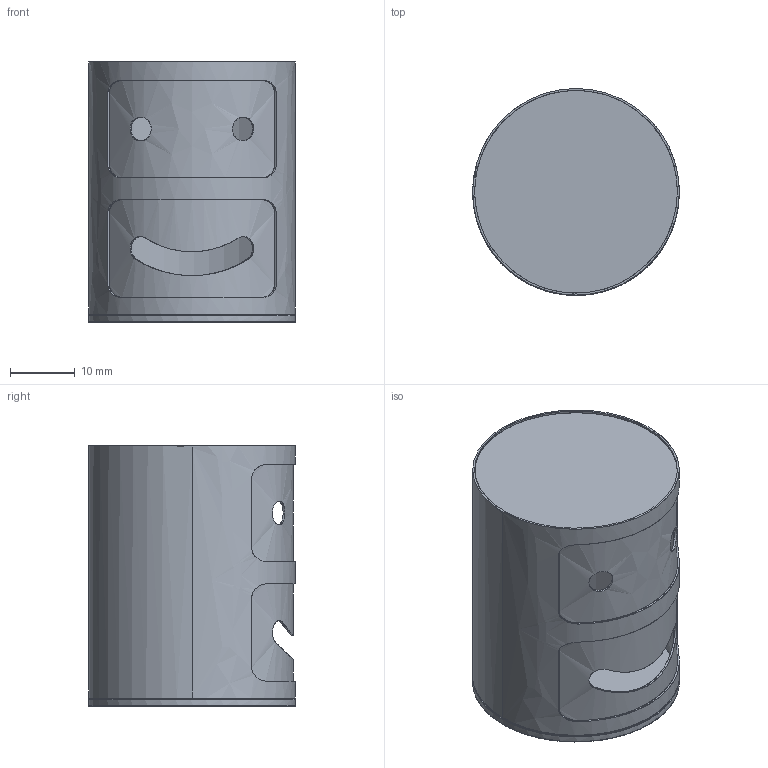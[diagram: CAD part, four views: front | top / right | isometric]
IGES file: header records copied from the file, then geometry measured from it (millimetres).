
Global section: file name: E:\Modelli 3D Kartell_3dd\Prodotti Revisione 1_3dd\da esportare_3dd\4924\Componibile Smile_3d_Anna Castelli Ferrieri_Kartell.igs; native system: Rhinoceros ( Mar 10 2014 ); preprocessor: Trout Lake IGES 012 Mar 10 2014; date: 180210.091941; units: millimetre
Bounding box: 32 x 32 x 40.4 mm (x, y, z)
Surface area: 13370.6 mm2 (no closed solid volume)
Topology: 0 solids, 0 shells, 33 faces, 533 edges, 524 vertices
Faces by surface type: bspline 33
